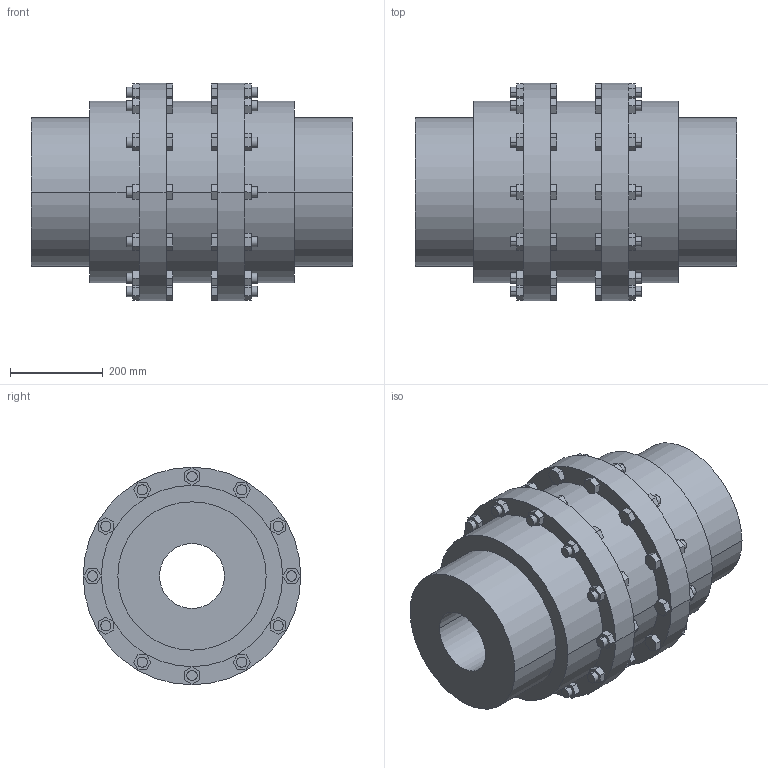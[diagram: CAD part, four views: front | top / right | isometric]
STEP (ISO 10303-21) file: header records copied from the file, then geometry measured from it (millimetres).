
FILE_DESCRIPTION((''),'2;1');
FILE_NAME('A19046600-0_ASM','2018-10-24T',('AB_Roschiwal'),('RENK AG'),'PRO/ENGINEER BY PARAMETRIC TECHNOLOGY CORPORATION, 2015440','PRO/ENGINEER BY PARAMETRIC TECHNOLOGY CORPORATION, 2015440','');
FILE_SCHEMA(('CONFIG_CONTROL_DESIGN'));
Length unit declared in the file: millimetre
Products named in the file (3): LBLK200_GEHAEUSE; LBLK200_NABE; A19046600-0_ASM
Assembly tree (3 placements, depth 2):
  A19046600-0_ASM
    LBLK200_GEHAEUSE
    LBLK200_NABE  x2
Bounding box: 694 x 470 x 470 mm (x, y, z)
Volume: 52524643.9 mm3; surface area: 2543982.6 mm2
Topology: 3 solids, 3 shells, 456 faces, 1104 edges, 736 vertices
Faces by surface type: plane 376, cylinder 80
Entity records: 12972 total; most frequent: CARTESIAN_POINT 2250, ORIENTED_EDGE 2160, DIRECTION 2124, EDGE_CURVE 1080, VECTOR 936, LINE 936, VERTEX_POINT 720, AXIS2_PLACEMENT_3D 594
